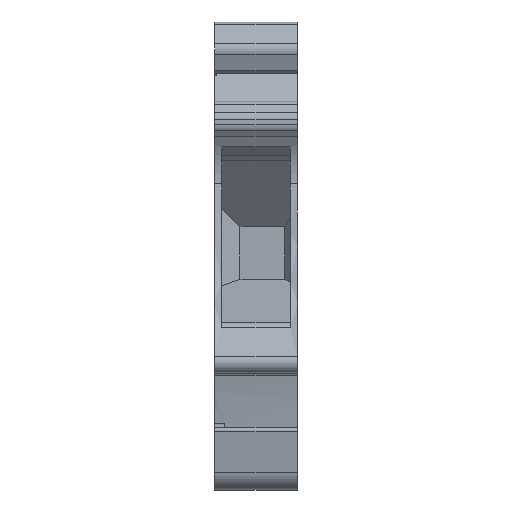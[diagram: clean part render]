
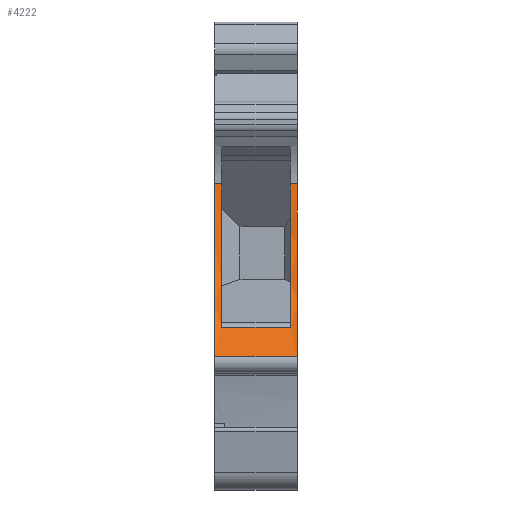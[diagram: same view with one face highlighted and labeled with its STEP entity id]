
A CAD part, left-side view. The second image highlights one B-rep face of the part: STEP entity #4222.
In plain terms, the highlighted cylindrical face has radius 35 mm (diameter 70 mm), a partial arc.
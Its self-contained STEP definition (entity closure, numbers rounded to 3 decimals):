
#153=CARTESIAN_POINT('',(-19.977,8.15,24.083));
#154=VERTEX_POINT('',#153);
#162=CARTESIAN_POINT('',(-26.314,8.15,7.081));
#163=VERTEX_POINT('',#162);
#164=CARTESIAN_POINT('',(-54.82,8.15,27.389));
#165=DIRECTION('',(0.814,0.,-0.58));
#166=DIRECTION('',(0.,-1.,0.));
#167=AXIS2_PLACEMENT_3D('',#164,#166,#165);
#168=CIRCLE('',#167,35.);
#169=EDGE_CURVE('',#163,#154,#168,.T.);
#3833=CARTESIAN_POINT('',(-19.977,7.45,24.083));
#3834=VERTEX_POINT('',#3833);
#3835=CARTESIAN_POINT('',(-24.443,7.45,10.003));
#3836=VERTEX_POINT('',#3835);
#3837=CARTESIAN_POINT('',(-54.82,7.45,27.389));
#3838=DIRECTION('',(0.996,0.,-0.094));
#3839=DIRECTION('',(0.,1.,0.));
#3840=AXIS2_PLACEMENT_3D('',#3837,#3839,#3838);
#3841=CIRCLE('',#3840,35.);
#3842=EDGE_CURVE('',#3834,#3836,#3841,.T.);
#3900=CARTESIAN_POINT('',(-24.443,0.7,10.003));
#3901=VERTEX_POINT('',#3900);
#3902=CARTESIAN_POINT('',(-19.977,0.7,24.083));
#3903=VERTEX_POINT('',#3902);
#3904=CARTESIAN_POINT('',(-54.82,0.7,27.389));
#3905=DIRECTION('',(0.868,0.,-0.497));
#3906=DIRECTION('',(0.,-1.,0.));
#3907=AXIS2_PLACEMENT_3D('',#3904,#3906,#3905);
#3908=CIRCLE('',#3907,35.);
#3909=EDGE_CURVE('',#3901,#3903,#3908,.T.);
#3974=CARTESIAN_POINT('',(-19.977,7.45,24.083));
#3975=DIRECTION('',(0.,1.,0.));
#3976=VECTOR('',#3975,0.7);
#3977=LINE('',#3974,#3976);
#3978=EDGE_CURVE('',#3834,#154,#3977,.T.);
#3982=CARTESIAN_POINT('',(-19.977,0.,24.083));
#3983=VERTEX_POINT('',#3982);
#3991=CARTESIAN_POINT('',(-19.977,0.,24.083));
#3992=DIRECTION('',(0.,1.,0.));
#3993=VECTOR('',#3992,0.7);
#3994=LINE('',#3991,#3993);
#3995=EDGE_CURVE('',#3983,#3903,#3994,.T.);
#4189=CARTESIAN_POINT('',(-54.82,8.15,27.389));
#4190=DIRECTION('',(0.814,0.,-0.58));
#4191=DIRECTION('',(0.,-1.,0.));
#4192=AXIS2_PLACEMENT_3D('',#4189,#4191,#4190);
#4193=CYLINDRICAL_SURFACE('',#4192,35.);
#4194=CARTESIAN_POINT('',(-26.314,0.,7.081));
#4195=VERTEX_POINT('',#4194);
#4196=CARTESIAN_POINT('',(-26.314,8.15,7.081));
#4197=DIRECTION('',(0.,-1.,0.));
#4198=VECTOR('',#4197,8.15);
#4199=LINE('',#4196,#4198);
#4200=EDGE_CURVE('',#163,#4195,#4199,.T.);
#4201=ORIENTED_EDGE('E1683',*,*,#4200,.F.);
#4202=ORIENTED_EDGE('E1683',*,*,#169,.T.);
#4203=ORIENTED_EDGE('E1683',*,*,#3978,.F.);
#4204=ORIENTED_EDGE('E1683',*,*,#3842,.T.);
#4205=CARTESIAN_POINT('',(-24.443,7.45,10.003));
#4206=DIRECTION('',(0.,-1.,0.));
#4207=VECTOR('',#4206,6.75);
#4208=LINE('',#4205,#4207);
#4209=EDGE_CURVE('',#3836,#3901,#4208,.T.);
#4210=ORIENTED_EDGE('E1575',*,*,#4209,.T.);
#4211=ORIENTED_EDGE('E1575',*,*,#3909,.T.);
#4212=ORIENTED_EDGE('E1575',*,*,#3995,.F.);
#4213=CARTESIAN_POINT('',(-54.82,0.,27.389));
#4214=DIRECTION('',(0.996,0.,-0.094));
#4215=DIRECTION('',(0.,1.,0.));
#4216=AXIS2_PLACEMENT_3D('',#4213,#4215,#4214);
#4217=CIRCLE('',#4216,35.);
#4218=EDGE_CURVE('',#3983,#4195,#4217,.T.);
#4219=ORIENTED_EDGE('E4704',*,*,#4218,.T.);
#4220=EDGE_LOOP('',(#4201,#4202,#4203,#4204,#4210,#4211,#4212,#4219));
#4221=FACE_OUTER_BOUND('',#4220,.F.);
#4222=ADVANCED_FACE('F452',(#4221),#4193,.F.);
